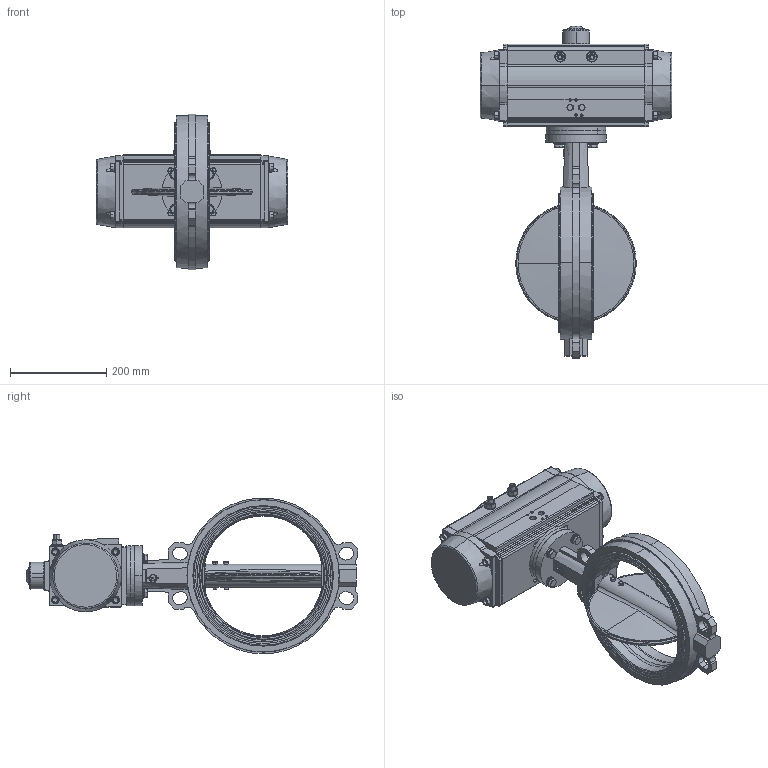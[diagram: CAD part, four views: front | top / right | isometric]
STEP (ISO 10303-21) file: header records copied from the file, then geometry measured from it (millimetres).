
FILE_DESCRIPTION (( 'STEP AP214' ), '1' );
FILE_NAME ('VPG444X-N03XX0250.step', '2022-06-27T15:43:04', ( '' ), ( '' ), 'SwSTEP 2.0', 'SolidWorks 2020', '' );
FILE_SCHEMA (( 'AUTOMOTIVE_DESIGN' ));
Length unit declared in the file: millimetre
Products named in the file (1): VPG444X-N03XX0250
Bounding box: 398 x 689.52 x 323.3 mm (x, y, z)
Surface area: 744706.5 mm2 (no closed solid volume)
Topology: 0 solids, 78 shells, 701 faces, 4132 edges, 3493 vertices
Faces by surface type: plane 311, cylinder 228, bspline 88, cone 74
Entity records: 67396 total; most frequent: CARTESIAN_POINT 30511, ORIENTED_EDGE 5565, DIRECTION 4933, EDGE_CURVE 4132, VERTEX_POINT 3493, VECTOR 2093, LINE 2093, AXIS2_PLACEMENT_3D 1420
